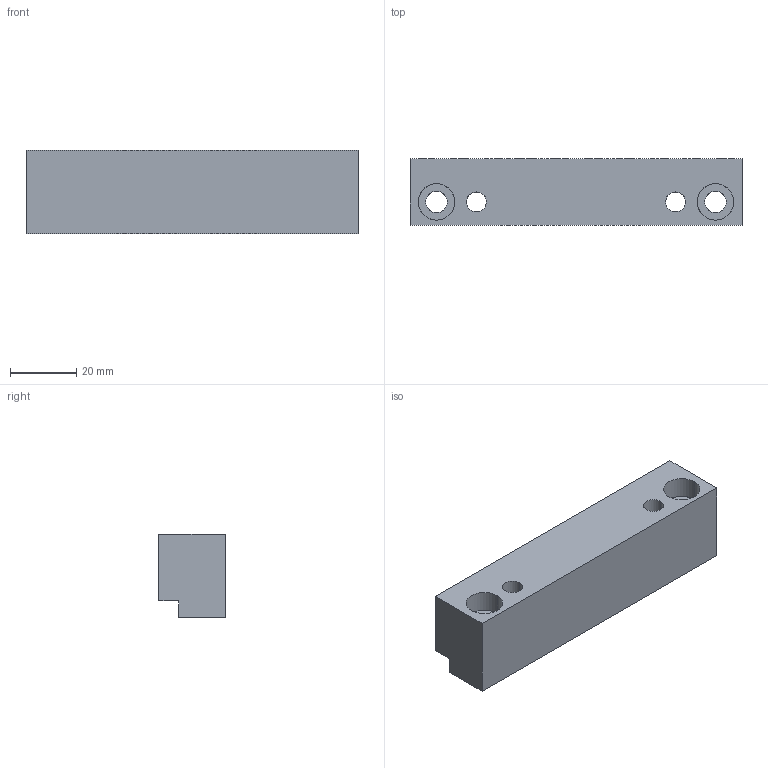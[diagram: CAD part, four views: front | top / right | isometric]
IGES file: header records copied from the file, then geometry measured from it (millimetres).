
Start section: START RECORD GO HERE.
Global section: file name: G40625100.igs; native system: DASSAULT SYSTEMES CATIA V5 R20 - www.3ds.com; preprocessor: CATIA Version 5 Release 20 ; author: r.borello; organization: CFTORINO; date: 20190624.150813; units: millimetre
Bounding box: 100 x 20 x 25 mm (x, y, z)
Surface area: 15129.8 mm2 (no closed solid volume)
Topology: 0 solids, 0 shells, 372 faces, 1570 edges, 1392 vertices
Faces by surface type: revolution 324, plane 48
